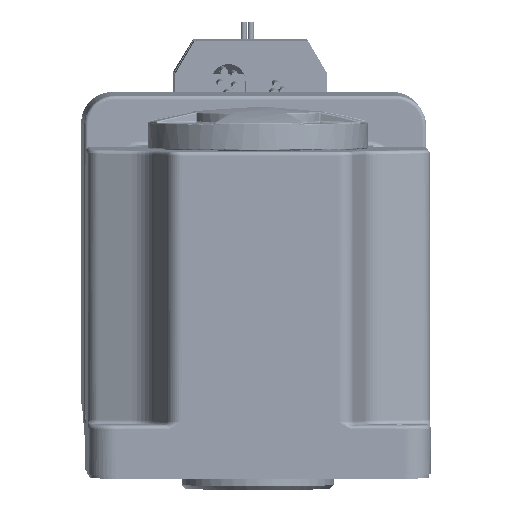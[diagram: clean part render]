
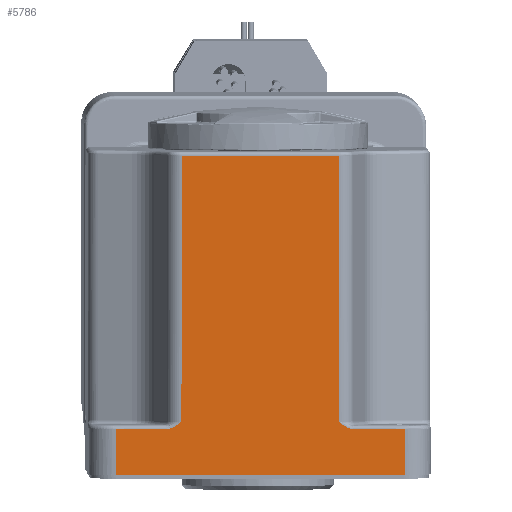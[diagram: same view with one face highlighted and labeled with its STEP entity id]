
A CAD part, top view. The second image highlights one B-rep face of the part: STEP entity #5786.
In plain terms, the highlighted planar face has unit normal (0.014, -0.021, 1).
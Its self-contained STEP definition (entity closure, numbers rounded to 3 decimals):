
#3200=PLANE('',#65980);
#5786=ADVANCED_FACE('',(#11633),#3200,.F.);
#11633=FACE_OUTER_BOUND('',#15637,.T.);
#15637=EDGE_LOOP('',(#30769,#30770,#30771,#30772,#30773,#30774,#30775,#30776,
#30777,#30778));
#30769=ORIENTED_EDGE('',*,*,#51051,.F.);
#30770=ORIENTED_EDGE('',*,*,#51052,.F.);
#30771=ORIENTED_EDGE('',*,*,#51053,.F.);
#30772=ORIENTED_EDGE('',*,*,#51054,.F.);
#30773=ORIENTED_EDGE('',*,*,#51055,.F.);
#30774=ORIENTED_EDGE('',*,*,#50803,.F.);
#30775=ORIENTED_EDGE('',*,*,#51050,.F.);
#30776=ORIENTED_EDGE('',*,*,#51056,.F.);
#30777=ORIENTED_EDGE('',*,*,#51057,.T.);
#30778=ORIENTED_EDGE('',*,*,#51058,.F.);
#42042=VERTEX_POINT('',#366812);
#42043=VERTEX_POINT('',#366817);
#42202=VERTEX_POINT('',#369040);
#42203=VERTEX_POINT('',#369050);
#42204=VERTEX_POINT('',#369051);
#42205=VERTEX_POINT('',#369056);
#42206=VERTEX_POINT('',#369061);
#42207=VERTEX_POINT('',#369066);
#42208=VERTEX_POINT('',#369075);
#42209=VERTEX_POINT('',#369082);
#50803=EDGE_CURVE('',#42042,#42043,#60152,.T.);
#51050=EDGE_CURVE('',#42202,#42042,#60396,.T.);
#51051=EDGE_CURVE('',#42203,#42204,#60397,.T.);
#51052=EDGE_CURVE('',#42205,#42203,#60398,.T.);
#51053=EDGE_CURVE('',#42206,#42205,#60399,.T.);
#51054=EDGE_CURVE('',#42207,#42206,#60400,.T.);
#51055=EDGE_CURVE('',#42043,#42207,#60401,.T.);
#51056=EDGE_CURVE('',#42208,#42202,#60402,.T.);
#51057=EDGE_CURVE('',#42208,#42209,#60403,.T.);
#51058=EDGE_CURVE('',#42204,#42209,#60404,.T.);
#60152=B_SPLINE_CURVE_WITH_KNOTS('',3,(#366813,#366814,#366815,#366816),
 .UNSPECIFIED.,.F.,.F.,(4,4),(0.,1.),.UNSPECIFIED.);
#60396=B_SPLINE_CURVE_WITH_KNOTS('',3,(#369041,#369042,#369043,#369044),
 .UNSPECIFIED.,.F.,.F.,(4,4),(0.,1.),.UNSPECIFIED.);
#60397=B_SPLINE_CURVE_WITH_KNOTS('',3,(#369046,#369047,#369048,#369049),
 .UNSPECIFIED.,.F.,.F.,(4,4),(0.,1.),.UNSPECIFIED.);
#60398=B_SPLINE_CURVE_WITH_KNOTS('',3,(#369052,#369053,#369054,#369055),
 .UNSPECIFIED.,.F.,.F.,(4,4),(0.,1.),.UNSPECIFIED.);
#60399=B_SPLINE_CURVE_WITH_KNOTS('',3,(#369057,#369058,#369059,#369060),
 .UNSPECIFIED.,.F.,.F.,(4,4),(0.,1.),.UNSPECIFIED.);
#60400=B_SPLINE_CURVE_WITH_KNOTS('',3,(#369062,#369063,#369064,#369065),
 .UNSPECIFIED.,.F.,.F.,(4,4),(0.,1.),.UNSPECIFIED.);
#60401=B_SPLINE_CURVE_WITH_KNOTS('',3,(#369067,#369068,#369069,#369070),
 .UNSPECIFIED.,.F.,.F.,(4,4),(0.,1.),.UNSPECIFIED.);
#60402=B_SPLINE_CURVE_WITH_KNOTS('',3,(#369071,#369072,#369073,#369074),
 .UNSPECIFIED.,.F.,.F.,(4,4),(0.,1.),.UNSPECIFIED.);
#60403=B_SPLINE_CURVE_WITH_KNOTS('',3,(#369076,#369077,#369078,#369079,
#369080,#369081),.UNSPECIFIED.,.F.,.F.,(4,2,4),(0.,0.5,1.),
 .UNSPECIFIED.);
#60404=B_SPLINE_CURVE_WITH_KNOTS('',3,(#369083,#369084,#369085,#369086),
 .UNSPECIFIED.,.F.,.F.,(4,4),(0.,1.),.UNSPECIFIED.);
#65980=AXIS2_PLACEMENT_3D('',#369087,#71979,#71980);
#71979=DIRECTION('',(-0.014,0.021,-1.));
#71980=DIRECTION('',(-1.,0.,0.014));
#366812=CARTESIAN_POINT('',(15.873,-146.409,140.802));
#366813=CARTESIAN_POINT('',(15.873,-146.409,140.802));
#366814=CARTESIAN_POINT('',(-9.458,-146.413,141.156));
#366815=CARTESIAN_POINT('',(-34.789,-146.416,141.51));
#366816=CARTESIAN_POINT('',(-60.119,-146.42,141.863));
#366817=CARTESIAN_POINT('',(-60.119,-146.42,141.863));
#369040=CARTESIAN_POINT('',(15.875,-134.412,141.053));
#369041=CARTESIAN_POINT('',(15.875,-134.412,141.053));
#369042=CARTESIAN_POINT('',(15.874,-138.411,140.97));
#369043=CARTESIAN_POINT('',(15.874,-142.41,140.886));
#369044=CARTESIAN_POINT('',(15.873,-146.409,140.802));
#369046=CARTESIAN_POINT('',(-42.804,-62.436,143.378));
#369047=CARTESIAN_POINT('',(-29.009,-62.434,143.185));
#369048=CARTESIAN_POINT('',(-15.213,-62.432,142.992));
#369049=CARTESIAN_POINT('',(-1.418,-62.43,142.8));
#369050=CARTESIAN_POINT('',(-42.804,-62.436,143.378));
#369051=CARTESIAN_POINT('',(-1.418,-62.43,142.8));
#369052=CARTESIAN_POINT('',(-42.814,-132.421,141.914));
#369053=CARTESIAN_POINT('',(-42.811,-109.092,142.402));
#369054=CARTESIAN_POINT('',(-42.807,-85.764,142.89));
#369055=CARTESIAN_POINT('',(-42.804,-62.436,143.378));
#369056=CARTESIAN_POINT('',(-42.814,-132.421,141.914));
#369057=CARTESIAN_POINT('',(-46.814,-134.421,141.929));
#369058=CARTESIAN_POINT('',(-45.615,-134.424,141.912));
#369059=CARTESIAN_POINT('',(-44.24,-133.64,141.909));
#369060=CARTESIAN_POINT('',(-42.814,-132.421,141.914));
#369061=CARTESIAN_POINT('',(-46.814,-134.421,141.929));
#369062=CARTESIAN_POINT('',(-60.118,-134.423,142.114));
#369063=CARTESIAN_POINT('',(-55.683,-134.422,142.052));
#369064=CARTESIAN_POINT('',(-51.249,-134.421,141.99));
#369065=CARTESIAN_POINT('',(-46.814,-134.421,141.929));
#369066=CARTESIAN_POINT('',(-60.118,-134.423,142.114));
#369067=CARTESIAN_POINT('',(-60.119,-146.42,141.863));
#369068=CARTESIAN_POINT('',(-60.119,-142.421,141.947));
#369069=CARTESIAN_POINT('',(-60.118,-138.422,142.031));
#369070=CARTESIAN_POINT('',(-60.118,-134.423,142.114));
#369071=CARTESIAN_POINT('',(2.572,-134.414,141.239));
#369072=CARTESIAN_POINT('',(7.006,-134.413,141.177));
#369073=CARTESIAN_POINT('',(11.44,-134.412,141.115));
#369074=CARTESIAN_POINT('',(15.875,-134.412,141.053));
#369075=CARTESIAN_POINT('',(2.572,-134.414,141.239));
#369076=CARTESIAN_POINT('',(2.572,-134.414,141.239));
#369077=CARTESIAN_POINT('',(1.973,-134.387,141.248));
#369078=CARTESIAN_POINT('',(1.317,-134.224,141.26));
#369079=CARTESIAN_POINT('',(-0.032,-133.536,141.294));
#369080=CARTESIAN_POINT('',(-0.717,-133.024,141.314));
#369081=CARTESIAN_POINT('',(-1.428,-132.415,141.337));
#369082=CARTESIAN_POINT('',(-1.428,-132.415,141.337));
#369083=CARTESIAN_POINT('',(-1.418,-62.43,142.8));
#369084=CARTESIAN_POINT('',(-1.421,-85.758,142.312));
#369085=CARTESIAN_POINT('',(-1.424,-109.086,141.824));
#369086=CARTESIAN_POINT('',(-1.428,-132.415,141.337));
#369087=CARTESIAN_POINT('',(-60.097,7.825,145.088));
